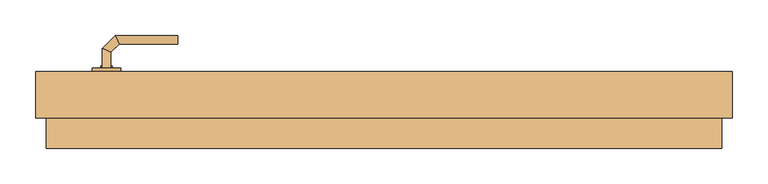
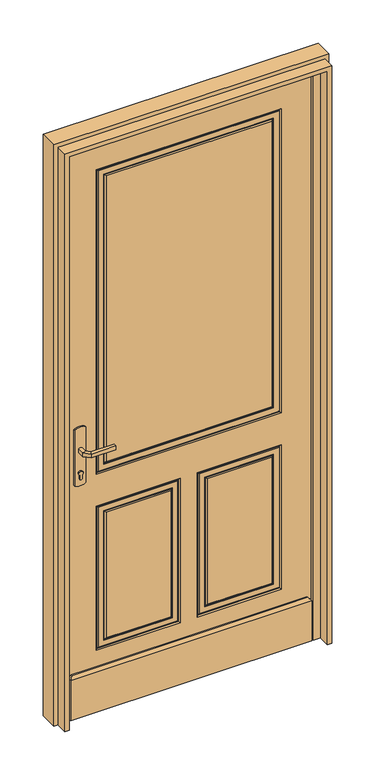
"""IFC4 building model written with IfcOpenShell, lengths in millimetres: door geometry, Entrée (avec angle d'ouverture) : PP Avec moulures (0.90 m x 2.15 m)."""

from ifc_helpers import new_model, si_unit, point, frame, frame_2d, origin, place, context, project, spatial, polyline, circle_curve, ellipse_curve, trimmed, segment, composite_curve, outline, extrude, faceted_brep, source, transform, mapped, element, save
from ifc_brep_helpers import plane_surface, cylinder_surface, advanced_brep


def door_b164ddad(model_context):
    return source(origin(), model_context, "Body", "SolidModel", [
        extrude(outline(composite_curve([segment(trimmed(circle_curve(frame_2d((904.6410162, -400.0)), 40.0), [point((870.0, -420.0))], [point((870.0, -380.0))], False, "CARTESIAN"), True, "CONTINUOUS"), segment(polyline([(870.0, -380.0), (1080.0, -380.0)]), True, "CONTINUOUS"), segment(trimmed(circle_curve(frame_2d((1045.3589838, -400.0)), 40.0), [point((1080.0, -380.0))], [point((1080.0, -420.0))], False, "CARTESIAN"), True, "CONTINUOUS"), segment(polyline([(1080.0, -420.0), (870.0, -420.0)]), True, "CONTINUOUS")], self_intersect=False)), frame((0.0, 133.0, 0.0), z_axis=(0.0, 1.0, 0.0), x_axis=(0.0, 0.0, 1.0)), (0.0, 0.0, 1.0), 5.0),
        extrude(outline(composite_curve([segment(trimmed(circle_curve(frame_2d((1045.3589838, -400.0)), 40.0), [point((1080.0, -380.0))], [point((1080.0, -420.0))], False, "CARTESIAN"), True, "CONTINUOUS"), segment(polyline([(1080.0, -420.0), (870.0, -420.0)]), True, "CONTINUOUS"), segment(trimmed(circle_curve(frame_2d((904.6410162, -400.0)), 40.0), [point((870.0, -420.0))], [point((870.0, -380.0))], False, "CARTESIAN"), True, "CONTINUOUS"), segment(polyline([(870.0, -380.0), (1080.0, -380.0)]), True, "CONTINUOUS")], self_intersect=False)), frame((0.0, 78.0, 0.0), z_axis=(0.0, 1.0, 0.0), x_axis=(0.0, 0.0, 1.0)), (0.0, 0.0, 1.0), 5.0),
        advanced_brep(
        [(-406.0, 138.0, 1007.0), (-406.0, 138.0, 993.0), (-394.0, 138.0, 993.0), (-394.0, 138.0, 1007.0), (-394.0, 160.680388, 1007.0), (-406.0, 165.6509507, 1007.0), (-394.0, 160.680388, 993.0), (-406.0, 165.6509507, 993.0), (-382.6522273, 172.0281607, 1007.0), (-387.62279, 184.0281607, 1007.0), (-382.6522273, 172.0281607, 993.0), (-387.62279, 184.0281607, 993.0), (-299.9813594, 184.0281607, 1007.0), (-299.9813594, 172.0281607, 1007.0), (-299.9813594, 172.0281607, 993.0), (-299.9813594, 184.0281607, 993.0)],
        [
            (0, 1),
            (1, 2, circle_curve(frame((-400.0, 138.0, 1013.0457722), z_axis=(0.0, -1.0, 0.0), x_axis=(1.0, 0.0, 0.0)), 20.9244589)),
            (2, 3),
            (3, 0, circle_curve(frame((-400.0, 138.0, 986.9542278), z_axis=(0.0, -1.0, 0.0), x_axis=(1.0, 0.0, 0.0)), 20.9244589)),
            (3, 4),
            (4, 5, ellipse_curve(frame((-400.0, 163.1656693, 986.9542278), z_axis=(-0.3826834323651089, -0.9238795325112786, 0.0), x_axis=(0.9238795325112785, -0.3826834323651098, 0.0)), 22.6484711, 20.9244589)),
            (5, 0),
            (2, 6),
            (6, 4),
            (1, 7),
            (7, 6, ellipse_curve(frame((-400.0, 163.1656693, 1013.0457722), z_axis=(-0.3826834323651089, -0.9238795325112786, 0.0), x_axis=(0.9238795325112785, -0.3826834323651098, 0.0)), 22.6484711, 20.9244589)),
            (5, 7),
            (4, 8),
            (8, 9, ellipse_curve(frame((-385.1375087, 178.0281607, 986.9542278), z_axis=(-0.9238795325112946, -0.38268343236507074, 0.0), x_axis=(0.3826834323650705, -0.9238795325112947, 0.0)), 22.6484711, 20.9244589)),
            (9, 5),
            (6, 10),
            (10, 8),
            (7, 11),
            (11, 10, ellipse_curve(frame((-385.1375087, 178.0281607, 1013.0457722), z_axis=(-0.9238795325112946, -0.38268343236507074, 0.0), x_axis=(0.3826834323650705, -0.9238795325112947, 0.0)), 22.6484711, 20.9244589)),
            (9, 11),
            (12, 13, circle_curve(frame((-299.9813594, 178.0281607, 986.9542278), z_axis=(1.0, 0.0, 0.0), x_axis=(0.0, -1.0, 0.0)), 20.9244589)),
            (13, 14),
            (14, 15, circle_curve(frame((-299.9813594, 178.0281607, 1013.0457722), z_axis=(1.0, 0.0, 0.0), x_axis=(0.0, -1.0, 0.0)), 20.9244589)),
            (15, 12),
            (8, 13),
            (12, 9),
            (10, 14),
            (11, 15),
        ],
        [
            plane_surface(frame((-409.2195445, 138.0, 1000.0), z_axis=(0.0, -1.0, 0.0), x_axis=(0.0, 0.0, -1.0))),
            cylinder_surface(frame((-400.0, 138.0, 986.9542278), z_axis=(0.0, -1.0, 0.0), x_axis=(1.0, 0.0, 0.0)), 20.9244589),
            plane_surface(frame((-394.0, 138.0, 1007.0), z_axis=(1.0, 0.0, 0.0), x_axis=(0.0, 1.0, 0.0))),
            cylinder_surface(frame((-400.0, 138.0, 1013.0457722), z_axis=(0.0, -1.0, 0.0), x_axis=(1.0, 0.0, 0.0)), 20.9244589),
            plane_surface(frame((-406.0, 138.0, 993.0), z_axis=(-1.0, 0.0, 0.0), x_axis=(0.0, 1.0, 0.0))),
            cylinder_surface(frame((-400.0, 163.1656693, 986.9542278), z_axis=(-0.7071067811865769, -0.7071067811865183, 0.0), x_axis=(0.7071067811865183, -0.7071067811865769, 0.0)), 20.9244589),
            plane_surface(frame((-394.0, 160.680388, 1007.0), z_axis=(0.7071067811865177, -0.7071067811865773, 0.0), x_axis=(0.7071067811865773, 0.7071067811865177, 0.0))),
            cylinder_surface(frame((-400.0, 163.1656693, 1013.0457722), z_axis=(-0.7071067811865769, -0.7071067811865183, 0.0), x_axis=(0.7071067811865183, -0.7071067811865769, 0.0)), 20.9244589),
            plane_surface(frame((-406.0, 165.6509507, 993.0), z_axis=(-0.7071067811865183, 0.7071067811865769, 0.0), x_axis=(0.7071067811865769, 0.7071067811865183, 0.0))),
            plane_surface(frame((-299.9813594, 178.0281607, 990.7804555), z_axis=(1.0, 0.0, 0.0), x_axis=(0.0, -1.0, 0.0))),
            cylinder_surface(frame((-385.1375087, 178.0281607, 986.9542278), z_axis=(-1.0, 0.0, 0.0), x_axis=(0.0, -1.0, 0.0)), 20.9244589),
            plane_surface(frame((-382.6522273, 172.0281607, 1007.0), z_axis=(0.0, -1.0, 0.0), x_axis=(1.0, 0.0, 0.0))),
            cylinder_surface(frame((-385.1375087, 178.0281607, 1013.0457722), z_axis=(-1.0, 0.0, 0.0), x_axis=(0.0, -1.0, 0.0)), 20.9244589),
            plane_surface(frame((-387.62279, 184.0281607, 993.0), z_axis=(0.0, 1.0, 0.0), x_axis=(1.0, 0.0, 0.0))),
        ],
        [
            (0, [[1, 2, 3, 4]]),
            (1, [[5, 6, 7, -4]]),
            (2, [[8, 9, -5, -3]]),
            (3, [[10, 11, -8, -2]]),
            (4, [[-7, 12, -10, -1]]),
            (5, [[13, 14, 15, -6]]),
            (6, [[16, 17, -13, -9]]),
            (7, [[18, 19, -16, -11]]),
            (8, [[-15, 20, -18, -12]]),
            (9, [[21, 22, 23, 24]]),
            (10, [[25, -21, 26, -14]]),
            (11, [[27, -22, -25, -17]]),
            (12, [[28, -23, -27, -19]]),
            (13, [[-26, -24, -28, -20]]),
        ],
    ),
        advanced_brep(
        [(-394.0, 78.0, 993.0), (-406.0, 78.0, 993.0), (-406.0, 78.0, 1007.0), (-394.0, 78.0, 1007.0), (-394.0, 55.5147955, 1007.0), (-394.0, 55.5147955, 993.0), (-406.0, 50.5442327, 1007.0), (-406.0, 50.5442327, 993.0), (-382.5147186, 44.0295141, 1007.0), (-382.5147186, 44.0295141, 993.0), (-387.4852814, 32.0295141, 1007.0), (-387.4852814, 32.0295141, 993.0), (-299.9542164, 44.0295141, 993.0), (-299.9542164, 44.0295141, 1007.0), (-299.9542164, 32.0295141, 1007.0), (-299.9542164, 32.0295141, 993.0)],
        [
            (0, 1, circle_curve(frame((-400.0, 78.0, 1013.0457722), z_axis=(0.0, 1.0, 0.0), x_axis=(-1.0, 0.0, 0.0)), 20.9244589)),
            (1, 2),
            (2, 3, circle_curve(frame((-400.0, 78.0, 986.9542278), z_axis=(0.0, 1.0, 0.0), x_axis=(-1.0, 0.0, 0.0)), 20.9244589)),
            (3, 0),
            (3, 4),
            (4, 5),
            (5, 0),
            (2, 6),
            (6, 4, ellipse_curve(frame((-400.0, 53.0295141, 986.9542278), z_axis=(-0.3826834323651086, 0.923879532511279, 0.0), x_axis=(0.9238795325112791, 0.3826834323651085, 0.0)), 22.6484711, 20.9244589)),
            (1, 7),
            (7, 6),
            (5, 7, ellipse_curve(frame((-400.0, 53.0295141, 1013.0457722), z_axis=(-0.3826834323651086, 0.923879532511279, 0.0), x_axis=(0.9238795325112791, 0.3826834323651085, 0.0)), 22.6484711, 20.9244589)),
            (4, 8),
            (8, 9),
            (9, 5),
            (6, 10),
            (10, 8, ellipse_curve(frame((-385.0, 38.0295141, 986.9542278), z_axis=(-0.9238795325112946, 0.38268343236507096, 0.0), x_axis=(0.3826834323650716, 0.9238795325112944, 0.0)), 22.6484711, 20.9244589)),
            (7, 11),
            (11, 10),
            (9, 11, ellipse_curve(frame((-385.0, 38.0295141, 1013.0457722), z_axis=(-0.9238795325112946, 0.38268343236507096, 0.0), x_axis=(0.3826834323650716, 0.9238795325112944, 0.0)), 22.6484711, 20.9244589)),
            (12, 13),
            (13, 14, circle_curve(frame((-299.9542164, 38.0295141, 986.9542278), z_axis=(1.0, 0.0, 0.0), x_axis=(0.0, -1.0, 0.0)), 20.9244589)),
            (14, 15),
            (15, 12, circle_curve(frame((-299.9542164, 38.0295141, 1013.0457722), z_axis=(1.0, 0.0, 0.0), x_axis=(0.0, -1.0, 0.0)), 20.9244589)),
            (8, 13),
            (12, 9),
            (10, 14),
            (11, 15),
        ],
        [
            plane_surface(frame((-409.2195445, 78.0, 1000.0), z_axis=(0.0, 1.0, 0.0), x_axis=(0.0, 0.0, 1.0))),
            plane_surface(frame((-394.0, 78.0, 993.0), z_axis=(1.0, 0.0, 0.0), x_axis=(0.0, -1.0, 0.0))),
            cylinder_surface(frame((-400.0, 78.0, 986.9542278), z_axis=(0.0, 1.0, 0.0), x_axis=(-1.0, 0.0, 0.0)), 20.9244589),
            plane_surface(frame((-406.0, 78.0, 1007.0), z_axis=(-1.0, 0.0, 0.0), x_axis=(0.0, -1.0, 0.0))),
            cylinder_surface(frame((-400.0, 78.0, 1013.0457722), z_axis=(0.0, 1.0, 0.0), x_axis=(-1.0, 0.0, 0.0)), 20.9244589),
            plane_surface(frame((-394.0, 55.5147955, 993.0), z_axis=(0.7071067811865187, 0.7071067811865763, 0.0), x_axis=(0.7071067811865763, -0.7071067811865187, 0.0))),
            cylinder_surface(frame((-400.0, 53.0295141, 986.9542278), z_axis=(-0.7071067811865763, 0.7071067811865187, 0.0), x_axis=(-0.7071067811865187, -0.7071067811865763, 0.0)), 20.9244589),
            plane_surface(frame((-406.0, 50.5442327, 1007.0), z_axis=(-0.7071067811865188, -0.7071067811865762, 0.0), x_axis=(0.7071067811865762, -0.7071067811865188, 0.0))),
            cylinder_surface(frame((-400.0, 53.0295141, 1013.0457722), z_axis=(-0.7071067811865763, 0.7071067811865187, 0.0), x_axis=(-0.7071067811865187, -0.7071067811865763, 0.0)), 20.9244589),
            plane_surface(frame((-299.9542164, 38.0295141, 990.7804555), z_axis=(1.0, 0.0, 0.0), x_axis=(0.0, -1.0, 0.0))),
            plane_surface(frame((-382.5147186, 44.0295141, 993.0), z_axis=(0.0, 1.0, 0.0), x_axis=(1.0, 0.0, 0.0))),
            cylinder_surface(frame((-385.0, 38.0295141, 986.9542278), z_axis=(-1.0, 0.0, 0.0), x_axis=(0.0, -1.0, 0.0)), 20.9244589),
            plane_surface(frame((-387.4852814, 32.0295141, 1007.0), z_axis=(0.0, -1.0, 0.0), x_axis=(1.0, 0.0, 0.0))),
            cylinder_surface(frame((-385.0, 38.0295141, 1013.0457722), z_axis=(-1.0, 0.0, 0.0), x_axis=(0.0, -1.0, 0.0)), 20.9244589),
        ],
        [
            (0, [[1, 2, 3, 4]]),
            (1, [[5, 6, 7, -4]]),
            (2, [[8, 9, -5, -3]]),
            (3, [[10, 11, -8, -2]]),
            (4, [[-7, 12, -10, -1]]),
            (5, [[13, 14, 15, -6]]),
            (6, [[16, 17, -13, -9]]),
            (7, [[18, 19, -16, -11]]),
            (8, [[-15, 20, -18, -12]]),
            (9, [[21, 22, 23, 24]]),
            (10, [[25, -21, 26, -14]]),
            (11, [[27, -22, -25, -17]]),
            (12, [[28, -23, -27, -19]]),
            (13, [[-26, -24, -28, -20]]),
        ],
    ),
        extrude(outline(composite_curve([segment(polyline([(908.0464422, -405.0), (895.0, -405.0)]), True, "CONTINUOUS"), segment(trimmed(circle_curve(frame_2d((895.0, -400.0)), 5.0), [point((895.0, -405.0))], [point((895.0, -395.0))], False, "CARTESIAN"), True, "CONTINUOUS"), segment(polyline([(895.0, -395.0), (908.0464422, -395.0)]), True, "CONTINUOUS"), segment(trimmed(circle_curve(frame_2d((914.2914402, -400.0)), 8.0), [point((908.0464422, -395.0))], [point((908.0464422, -405.0))], False, "CARTESIAN"), True, "CONTINUOUS")], self_intersect=False)), frame((0.0, 138.0, 0.0), z_axis=(0.0, 1.0, 0.0), x_axis=(0.0, 0.0, 1.0)), (0.0, 0.0, 1.0), 3.0),
        extrude(outline(composite_curve([segment(polyline([(908.0464422, -405.0), (895.0, -405.0)]), True, "CONTINUOUS"), segment(trimmed(circle_curve(frame_2d((895.0, -400.0)), 5.0), [point((895.0, -405.0))], [point((895.0, -395.0))], False, "CARTESIAN"), True, "CONTINUOUS"), segment(polyline([(895.0, -395.0), (908.0464422, -395.0)]), True, "CONTINUOUS"), segment(trimmed(circle_curve(frame_2d((914.2914402, -400.0)), 8.0), [point((908.0464422, -395.0))], [point((908.0464422, -405.0))], False, "CARTESIAN"), True, "CONTINUOUS")], self_intersect=False)), frame((0.0, 73.0, 0.0), z_axis=(0.0, 1.0, 0.0), x_axis=(0.0, 0.0, 1.0)), (0.0, 0.0, 1.0), 5.0),
        faceted_brep([(440.0, 133.0, 2150.0), (440.0, 133.0, 0.0), (-460.0, 133.0, 0.0), (-460.0, 133.0, 2150.0), (440.0, 83.0, 2150.0), (-460.0, 83.0, 2150.0), (-460.0, 83.0, 0.0), (440.0, 83.0, 0.0), (-340.0, 83.0, 2030.0), (320.0, 83.0, 2030.0), (320.0, 83.0, 883.3333333), (-340.0, 83.0, 883.3333333), (20.0, 83.0, 763.3333333), (320.0, 83.0, 763.3333333), (320.0, 83.0, 220.0), (20.0, 83.0, 220.0), (-340.0, 83.0, 763.3333333), (-40.0, 83.0, 763.3333333), (-40.0, 83.0, 220.0), (-340.0, 83.0, 220.0), (-305.0, 83.0, 918.3333333), (285.0, 83.0, 918.3333333), (285.0, 83.0, 1995.0), (-305.0, 83.0, 1995.0), (55.0, 83.0, 255.0), (285.0, 83.0, 255.0), (285.0, 83.0, 728.3333333), (55.0, 83.0, 728.3333333), (-305.0, 83.0, 255.0), (-75.0, 83.0, 255.0), (-75.0, 83.0, 728.3333333), (-305.0, 83.0, 728.3333333), (-336.4644661, 86.5355339, 886.8688672), (-336.4644661, 86.5355339, 2026.4644661), (-308.5355339, 86.5355339, 914.7977994), (-308.5355339, 86.5355339, 1998.5355339), (-312.6388478, 84.8966861, 910.6944856), (-311.0, 86.5355339, 912.3333333), (-311.0, 86.5355339, 2001.0), (-312.6388478, 84.8966861, 2002.6388478), (-334.0, 86.5355339, 889.3333333), (-332.3611522, 84.8966861, 890.9721811), (-332.3611522, 84.8966861, 2022.3611522), (-334.0, 86.5355339, 2024.0), (316.4644661, 86.5355339, 2026.4644661), (288.5355339, 86.5355339, 1998.5355339), (291.0, 86.5355339, 2001.0), (292.6388478, 84.8966861, 2002.6388478), (312.3611522, 84.8966861, 2022.3611522), (314.0, 86.5355339, 2024.0), (316.4644661, 86.5355339, 886.8688672), (288.5355339, 86.5355339, 914.7977994), (291.0, 86.5355339, 912.3333333), (292.6388478, 84.8966861, 910.6944856), (312.3611522, 84.8966861, 890.9721811), (314.0, 86.5355339, 889.3333333), (23.5355339, 86.5355339, 223.5355339), (23.5355339, 86.5355339, 759.7977994), (51.4644661, 86.5355339, 251.4644661), (51.4644661, 86.5355339, 731.8688672), (47.3611522, 84.8966861, 247.3611522), (49.0, 86.5355339, 249.0), (49.0, 86.5355339, 734.3333333), (47.3611522, 84.8966861, 735.9721811), (26.0, 86.5355339, 226.0), (27.6388478, 84.8966861, 227.6388478), (27.6388478, 84.8966861, 755.6944856), (26.0, 86.5355339, 757.3333333), (316.4644661, 86.5355339, 759.7977994), (288.5355339, 86.5355339, 731.8688672), (291.0, 86.5355339, 734.3333333), (292.6388478, 84.8966861, 735.9721811), (312.3611522, 84.8966861, 755.6944856), (314.0, 86.5355339, 757.3333333), (316.4644661, 86.5355339, 223.5355339), (288.5355339, 86.5355339, 251.4644661), (291.0, 86.5355339, 249.0), (292.6388478, 84.8966861, 247.3611522), (312.3611522, 84.8966861, 227.6388478), (314.0, 86.5355339, 226.0), (-336.4644661, 86.5355339, 223.5355339), (-336.4644661, 86.5355339, 759.7977994), (-308.5355339, 86.5355339, 251.4644661), (-308.5355339, 86.5355339, 731.8688672), (-312.6388478, 84.8966861, 247.3611522), (-311.0, 86.5355339, 249.0), (-311.0, 86.5355339, 734.3333333), (-312.6388478, 84.8966861, 735.9721811), (-334.0, 86.5355339, 226.0), (-332.3611522, 84.8966861, 227.6388478), (-332.3611522, 84.8966861, 755.6944856), (-334.0, 86.5355339, 757.3333333), (-43.5355339, 86.5355339, 759.7977994), (-71.4644661, 86.5355339, 731.8688672), (-69.0, 86.5355339, 734.3333333), (-67.3611522, 84.8966861, 735.9721811), (-47.6388478, 84.8966861, 755.6944856), (-46.0, 86.5355339, 757.3333333), (-43.5355339, 86.5355339, 223.5355339), (-71.4644661, 86.5355339, 251.4644661), (-69.0, 86.5355339, 249.0), (-67.3611522, 84.8966861, 247.3611522), (-47.6388478, 84.8966861, 227.6388478), (-46.0, 86.5355339, 226.0)], [[[0, 1, 2, 3]], [[4, 5, 6, 7], [8, 9, 10, 11], [12, 13, 14, 15], [16, 17, 18, 19]], [[20, 21, 22, 23]], [[24, 25, 26, 27]], [[28, 29, 30, 31]], [[3, 5, 4, 0]], [[2, 6, 5, 3]], [[1, 7, 6, 2]], [[0, 4, 7, 1]], [[8, 11, 32, 33]], [[34, 20, 23, 35]], [[36, 37, 38, 39]], [[40, 41, 42, 43]], [[33, 44, 9, 8]], [[23, 22, 45, 35]], [[38, 46, 47, 39]], [[42, 48, 49, 43]], [[44, 50, 10, 9]], [[22, 21, 51, 45]], [[46, 52, 53, 47]], [[48, 54, 55, 49]], [[11, 10, 50, 32]], [[34, 51, 21, 20]], [[37, 52, 46, 38], [35, 45, 51, 34]], [[36, 53, 52, 37]], [[41, 54, 48, 42], [39, 47, 53, 36]], [[40, 55, 54, 41]], [[32, 50, 44, 33], [43, 49, 55, 40]], [[12, 15, 56, 57]], [[58, 24, 27, 59]], [[60, 61, 62, 63]], [[64, 65, 66, 67]], [[57, 68, 13, 12]], [[27, 26, 69, 59]], [[62, 70, 71, 63]], [[66, 72, 73, 67]], [[68, 74, 14, 13]], [[26, 25, 75, 69]], [[70, 76, 77, 71]], [[72, 78, 79, 73]], [[15, 14, 74, 56]], [[58, 75, 25, 24]], [[61, 76, 70, 62], [59, 69, 75, 58]], [[60, 77, 76, 61]], [[65, 78, 72, 66], [63, 71, 77, 60]], [[64, 79, 78, 65]], [[56, 74, 68, 57], [67, 73, 79, 64]], [[16, 19, 80, 81]], [[82, 28, 31, 83]], [[84, 85, 86, 87]], [[88, 89, 90, 91]], [[81, 92, 17, 16]], [[31, 30, 93, 83]], [[86, 94, 95, 87]], [[90, 96, 97, 91]], [[92, 98, 18, 17]], [[30, 29, 99, 93]], [[94, 100, 101, 95]], [[96, 102, 103, 97]], [[19, 18, 98, 80]], [[82, 99, 29, 28]], [[85, 100, 94, 86], [83, 93, 99, 82]], [[84, 101, 100, 85]], [[89, 102, 96, 90], [87, 95, 101, 84]], [[88, 103, 102, 89]], [[80, 98, 92, 81], [91, 97, 103, 88]]]),
        faceted_brep([(-440.0, 83.0, 0.0), (-440.0, 83.0, 150.0), (-430.0, 83.0, 160.0), (410.0, 83.0, 160.0), (420.0, 83.0, 150.0), (420.0, 83.0, 0.0), (420.0, 68.0, 0.0), (420.0, 68.0, 150.0), (-440.0, 68.0, 150.0), (-440.0, 68.0, 0.0), (-430.0, 78.0, 160.0), (410.0, 78.0, 160.0)], [[[0, 1, 2, 3, 4, 5]], [[6, 7, 8, 9]], [[9, 8, 1, 0]], [[5, 6, 9, 0]], [[5, 4, 7, 6]], [[2, 10, 11, 3]], [[7, 4, 3, 11]], [[11, 10, 8, 7]], [[10, 2, 1, 8]]]),
        faceted_brep([(-500.0, 68.0, 0.0), (-500.0, 133.0, 0.0), (-460.0, 133.0, 0.0), (-460.0, 83.0, 0.0), (-445.0, 83.0, 0.0), (-445.0, 68.0, 0.0), (-445.0, 68.0, 2135.0), (425.0, 68.0, 2135.0), (425.0, 68.0, 0.0), (480.0, 68.0, 0.0), (480.0, 68.0, 2190.0), (-500.0, 68.0, 2190.0), (-445.0, 83.0, 2135.0), (-460.0, 83.0, 2150.0), (440.0, 83.0, 2150.0), (440.0, 83.0, 0.0), (425.0, 83.0, 0.0), (425.0, 83.0, 2135.0), (-460.0, 133.0, 2150.0), (-500.0, 133.0, 2190.0), (480.0, 133.0, 2190.0), (480.0, 133.0, 0.0), (440.0, 133.0, 0.0), (440.0, 133.0, 2150.0)], [[[0, 1, 2, 3, 4, 5]], [[5, 6, 7, 8, 9, 10, 11, 0]], [[4, 12, 6, 5]], [[3, 13, 14, 15, 16, 17, 12, 4]], [[2, 18, 13, 3]], [[1, 19, 20, 21, 22, 23, 18, 2]], [[0, 11, 19, 1]], [[10, 9, 21, 20]], [[9, 8, 16, 15, 22, 21]], [[17, 16, 8, 7]], [[23, 22, 15, 14]], [[12, 17, 7, 6]], [[18, 23, 14, 13]], [[11, 10, 20, 19]]]),
        extrude(outline(polyline([(0.0, -470.0), (2160.0, -470.0), (2160.0, 450.0), (0.0, 450.0), (0.0, 465.0), (2175.0, 465.0), (2175.0, -485.0), (0.0, -485.0), (0.0, -470.0)])), frame((0.0, 25.0, 0.0), z_axis=(0.0, 1.0, 0.0), x_axis=(0.0, 0.0, 1.0)), (0.0, 0.0, 1.0), 43.0),
    ])


if __name__ == "__main__":
    model = new_model("IFC4")
    model_context = context("Model", 3, world=origin())
    ifc_project = project(units=[si_unit("LENGTHUNIT", "METRE", prefix="MILLI")], contexts=[model_context])
    site = spatial("IfcSite", under=ifc_project)
    building = spatial("IfcBuilding", under=site)
    placement = place(None, origin())
    door_shape = door_b164ddad(model_context)
    element("IfcDoor", 1, ObjectType="Entrée (avec angle d'ouverture) : PP Avec moulures (0.90 m x 2.15 m)", at=placement, inside=building, context=model_context, shape_type="MappedRepresentation", body=[
        mapped(door_shape, transform((0.0, 0.0, 0.0), x_axis=(1.0, 0.0, 0.0), y_axis=(0.0, 1.0, 0.0), z_axis=(0.0, 0.0, 1.0))),
    ])
    save(model, "model.ifc")
